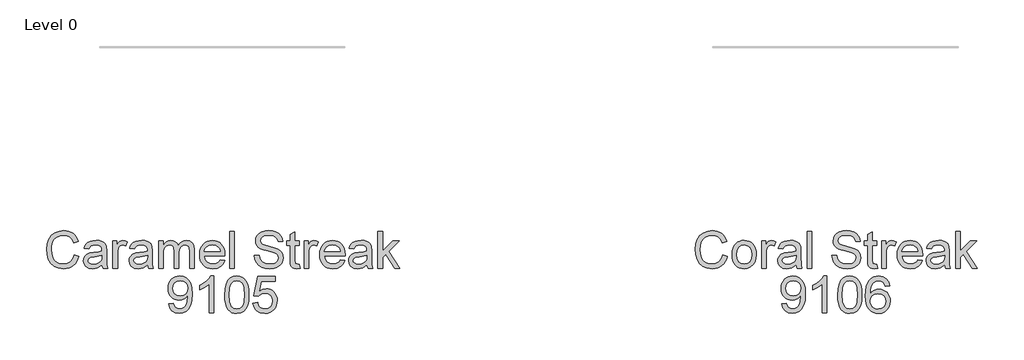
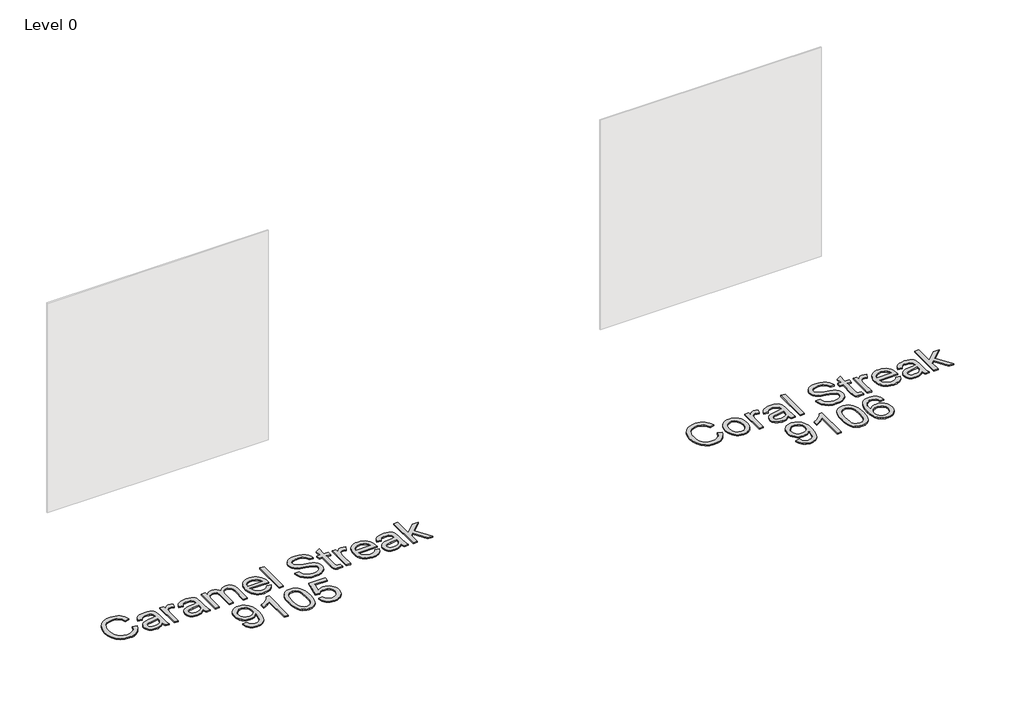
# One storey, part 9 of 10: 2 proxies.
"""IFC4 building model written with IfcOpenShell, lengths in millimetres."""

from ifc_helpers import new_model, si_unit, origin, origin_with_axes, place, context, project, spatial, polyline, outline, extrude, element, save

model = new_model("IFC4")

# Units and contexts
model_context = context("Model", 3, world=origin())
ifc_project = project(units=[si_unit("LENGTHUNIT", "METRE", prefix="MILLI")], contexts=[model_context])

# Site, building, storey
site = spatial("IfcSite", under=ifc_project)
building = spatial("IfcBuilding", under=site)
storey = spatial("IfcBuildingStorey", under=building, Name="Level 0", Elevation=0.0)

# Proxies
placement = place(None, origin())
element("IfcBuildingElementProxy", 1, Name="300mm Arial", ObjectType="300mm Arial", at=placement, inside=storey, context=model_context, shape_type="SweptSolid", body=[
    extrude(outline(polyline([(9631.1084837, -6895.733257), (9668.7796, -6905.4453417), (9661.3253911, -6928.872527), (9651.3971758, -6949.3428607), (9638.994954, -6966.856343), (9624.1187258, -6981.4129737), (9607.1041835, -6992.856403), (9588.2870195, -7001.0302811), (9567.6672337, -7005.9346079), (9545.2448261, -7007.5693835), (9501.5496421, -7002.6213707), (9466.8491729, -6987.7773322), (9440.2513046, -6963.5523028), (9420.8639235, -6930.4613173), (9409.0273203, -6891.5577963), (9405.0817859, -6849.8951604), (9409.5423551, -6805.9516561), (9422.9240627, -6768.0046283), (9444.5279328, -6737.2588905), (9473.6549898, -6714.9192564), (9508.1991091, -6701.3168196), (9546.0541664, -6696.782674), (9587.3581175, -6702.6503918), (9605.3268537, -6709.9850391), (9621.5067637, -6720.2535453), (9635.631133, -6733.1845974), (9647.4332473, -6748.5068825), (9664.0707105, -6786.3251516), (9626.3995942, -6795.3014723), (9613.3397834, -6767.8298843), (9595.4975066, -6748.9851291), (9572.6520347, -6738.086625), (9544.5826385, -6734.4537903), (9512.227417, -6738.4820981), (9485.6479428, -6750.5670217), (9465.4788125, -6769.439368), (9452.3546223, -6793.8299443), (9445.1533322, -6821.4026999), (9442.7529022, -6849.821584), (9445.5947906, -6884.6232207), (9454.1204559, -6914.7159679), (9468.6517947, -6938.9501944), (9489.5107038, -6956.1762688), (9514.5174824, -6966.4677676), (9541.4924297, -6969.8982672), (9572.9371432, -6965.2261659), (9599.1395384, -6951.2098619), (9618.9223926, -6927.996508), (9631.1084837, -6895.733257)])), origin_with_axes(), (0.0, 0.0, 1.0), 10.0),
    extrude(outline(polyline([(9706.4507163, -6892.2015898), (9708.4878629, -6863.5389839), (9714.5993025, -6838.8403064), (9724.7850353, -6818.1055575), (9739.0450611, -6801.334737), (9753.401656, -6790.6155754), (9769.2481729, -6782.9590314), (9786.5846119, -6778.3651049), (9805.410973, -6776.8337961), (9826.1940065, -6778.698498), (9844.9858787, -6784.2926036), (9861.7865895, -6793.6161129), (9876.5961391, -6806.669026), (9888.6833619, -6823.0098843), (9897.3170925, -6842.1972296), (9902.4973308, -6864.2310619), (9904.224077, -6889.1113811), (9901.1706564, -6927.1687735), (9892.0103947, -6956.1394806), (9877.0100064, -6977.8353213), (9856.4362058, -6994.0681143), (9831.9996442, -7004.1940662), (9805.410973, -7007.5693835), (9784.3244369, -7005.7115794), (9765.3578208, -7000.1381672), (9748.5111247, -6990.8491468), (9733.7843486, -6977.8445183), (9721.8258845, -6961.3450108), (9713.2841244, -6941.5713536), (9708.1590684, -6918.5235466), (9706.4507163, -6892.2015898)]), holes=[polyline([(9744.1218326, -6892.1280134), (9748.4812343, -6926.2214773), (9761.5594392, -6950.5108861), (9781.241126, -6965.0514219), (9805.410973, -6969.8982672), (9829.4704555, -6965.0238308), (9849.1153541, -6950.4005215), (9862.193559, -6925.789216), (9866.5529606, -6890.950791), (9862.1659679, -6857.8506085), (9849.0049895, -6833.8922936), (9829.3324998, -6819.3517577), (9805.410973, -6814.5049125), (9781.241126, -6819.3333636), (9761.5594392, -6833.8187172), (9748.4812343, -6858.0529436), (9744.1218326, -6892.1280134)])]), origin_with_axes(), (0.0, 0.0, 1.0), 10.0),
    extrude(outline(polyline([(9946.6040828, -7002.860494), (9946.6040828, -6781.5426857), (9979.5663096, -6781.5426857), (9979.5663096, -6814.2841833), (9991.7432036, -6795.3014723), (10002.9636045, -6784.1178596), (10014.2207935, -6778.654812), (10026.5080521, -6776.8337961), (10045.2700339, -6779.7400639), (10064.3263213, -6788.4588672), (10051.744757, -6822.2304343), (10038.5010052, -6816.4362929), (10025.2572534, -6814.5049125), (10014.0092614, -6816.3627165), (10003.9568858, -6821.9361288), (9995.8358908, -6830.8020848), (9990.3820402, -6842.5375205), (9985.8019094, -6863.5803706), (9984.2751991, -6886.5362071), (9984.2751991, -7002.860494), (9946.6040828, -7002.860494)])), origin_with_axes(), (0.0, 0.0, 1.0), 10.0),
    extrude(outline(polyline([(10229.1374551, -6974.6071568), (10211.1388285, -6990.0398064), (10192.606773, -7000.1381672), (10173.1182243, -7005.7115794), (10152.2501181, -7007.5693835), (10120.7686164, -7003.0996173), (10097.5460654, -6989.6903186), (10083.2262588, -6969.3280501), (10078.4529899, -6943.9993748), (10080.2556116, -6928.3827841), (10085.663477, -6914.2009331), (10094.0052012, -6902.0608273), (10104.6093997, -6892.5694718), (10130.9865388, -6880.2086368), (10163.5808836, -6874.5432541), (10202.0981284, -6868.5835657), (10228.9167259, -6861.5938078), (10229.1374551, -6853.2060983), (10226.543887, -6836.3938912), (10218.7631828, -6825.3942195), (10201.3623645, -6817.2272392), (10177.118941, -6814.5049125), (10154.6781393, -6816.3167313), (10139.0063663, -6821.7521878), (10128.3193943, -6831.8045633), (10120.8329957, -6847.4671392), (10083.1618794, -6842.7582497), (10089.7009819, -6822.156858), (10099.4590518, -6805.9700502), (10113.3465971, -6793.590821), (10132.2741258, -6784.4121652), (10155.4231003, -6778.7283884), (10181.9749833, -6776.8337961), (10207.4416144, -6778.5076592), (10227.6291389, -6783.5292485), (10242.8502565, -6791.0800264), (10253.4176668, -6800.3414556), (10260.4258188, -6811.7917827), (10264.9691614, -6825.9092543), (10266.8085714, -6858.8714811), (10266.8085714, -6905.7396473), (10268.7215578, -6971.1858542), (10276.2263505, -7002.860494), (10238.5552342, -7002.860494), (10229.1374551, -6974.6071568)]), holes=[polyline([(10229.1374551, -6899.2649241), (10168.3633495, -6910.8164188), (10135.9529457, -6916.9232599), (10121.2744541, -6926.8560738), (10116.1241062, -6941.3506244), (10118.9292064, -6952.5526311), (10127.344507, -6961.7312869), (10141.1860671, -6967.8565221), (10160.2699456, -6969.8982672), (10180.5034553, -6967.64499), (10198.3825203, -6960.8851583), (10212.8770709, -6950.9247533), (10222.9570376, -6939.069756), (10227.4268038, -6926.8560738), (10228.9167259, -6909.933502), (10229.1374551, -6899.2649241)])]), origin_with_axes(), (0.0, 0.0, 1.0), 10.0),
    extrude(outline(polyline([(10318.6063563, -7002.860494), (10318.6063563, -6701.4915635), (10356.2774726, -6701.4915635), (10356.2774726, -7002.860494), (10318.6063563, -7002.860494)])), origin_with_axes(), (0.0, 0.0, 1.0), 10.0),
    extrude(outline(polyline([(10521.0886065, -6899.2649241), (10558.7597228, -6899.2649241), (10563.0823362, -6920.1698185), (10570.8998286, -6936.9728286), (10583.0951168, -6950.308551), (10600.5511174, -6960.8115819), (10621.8882731, -6967.6265959), (10645.7270264, -6969.8982672), (10666.7146943, -6968.1784189), (10685.0903999, -6963.0188739), (10699.9804237, -6954.8518936), (10710.5110458, -6944.1097394), (10716.7742367, -6931.7764955), (10718.8619671, -6918.8362463), (10717.2984686, -6906.2270909), (10712.6079732, -6895.3285868), (10703.0798295, -6886.0303694), (10687.0033863, -6878.222074), (10632.1521808, -6863.837888), (10596.1457305, -6854.3189414), (10573.1071206, -6845.2598472), (10554.3543359, -6832.5863125), (10541.0645988, -6817.2272392), (10533.1459389, -6799.5137211), (10530.5063855, -6779.7768521), (10533.7713382, -6757.7131294), (10543.5661964, -6737.1393289), (10559.6334425, -6719.7017223), (10581.7155593, -6707.0465817), (10608.221457, -6699.3486509), (10637.5600461, -6696.782674), (10669.3450505, -6699.4682126), (10697.1569294, -6707.5248283), (10720.0024013, -6720.7869742), (10736.8881848, -6739.0891034), (10747.5751568, -6761.2907818), (10751.8241938, -6786.2515752), (10714.1530775, -6786.2515752), (10707.236896, -6763.7739853), (10692.8159218, -6747.5503893), (10670.2831496, -6737.7279401), (10639.0315741, -6734.4537903), (10607.0442346, -6737.6911519), (10585.1000736, -6747.4032365), (10572.4081448, -6761.695452), (10568.1775018, -6778.6732061), (10571.1757401, -6793.1493626), (10580.1704549, -6804.7928278), (10601.4340342, -6815.2038882), (10641.6803245, -6825.8356779), (10683.2142017, -6835.9340387), (10708.340542, -6844.7448125), (10729.8156535, -6858.4116286), (10744.7976477, -6875.2790181), (10753.5992245, -6895.1630399), (10756.5330834, -6917.8797531), (10753.1577661, -6941.102304), (10743.0318142, -6962.9452975), (10726.5690949, -6981.7440675), (10704.1834755, -6995.8339479), (10677.2637105, -7004.6355246), (10647.1985544, -7007.5693835), (10610.2907932, -7004.4055984), (10579.9129375, -6994.9142429), (10555.7154993, -6979.0585289), (10537.3489906, -6956.8016682), (10525.5583727, -6929.6887651), (10521.0886065, -6899.2649241)])), origin_with_axes(), (0.0, 0.0, 1.0), 10.0),
    extrude(outline(polyline([(10888.3819904, -6971.4433716), (10893.09088, -7003.96414), (10864.9111192, -7007.5693835), (10846.8297191, -7006.005885), (10833.346844, -7001.3153896), (10823.8187003, -6994.0865084), (10817.6014946, -6984.9078526), (10814.180192, -6969.1441091), (10813.0397578, -6942.1599648), (10813.0397578, -6819.213802), (10784.7864206, -6819.213802), (10784.7864206, -6781.5426857), (10813.0397578, -6781.5426857), (10813.0397578, -6727.758338), (10850.7108741, -6705.6118419), (10850.7108741, -6781.5426857), (10888.3819904, -6781.5426857), (10888.3819904, -6819.213802), (10850.7108741, -6819.213802), (10850.7108741, -6941.0563188), (10852.6974369, -6960.4804881), (10859.1353718, -6967.3598814), (10871.9744535, -6969.8982672), (10888.3819904, -6971.4433716)])), origin_with_axes(), (0.0, 0.0, 1.0), 10.0),
    extrude(outline(polyline([(10926.0531068, -7002.860494), (10926.0531068, -6781.5426857), (10959.0153335, -6781.5426857), (10959.0153335, -6814.2841833), (10971.1922276, -6795.3014723), (10982.4126284, -6784.1178596), (10993.6698175, -6778.654812), (11005.9570761, -6776.8337961), (11024.7190579, -6779.7400639), (11043.7753452, -6788.4588672), (11031.193781, -6822.2304343), (11017.9500291, -6816.4362929), (11004.7062773, -6814.5049125), (10993.4582853, -6816.3627165), (10983.4059098, -6821.9361288), (10975.2849148, -6830.8020848), (10969.8310642, -6842.5375205), (10965.2509333, -6863.5803706), (10963.7242231, -6886.5362071), (10963.7242231, -7002.860494), (10926.0531068, -7002.860494)])), origin_with_axes(), (0.0, 0.0, 1.0), 10.0),
    extrude(outline(polyline([(11222.2716893, -6936.9360404), (11259.2070416, -6941.64493), (11245.8989104, -6969.4752029), (11224.6629222, -6990.2789297), (11195.9773237, -7003.2467701), (11160.3203613, -7007.5693835), (11136.946059, -7005.7046817), (11116.1193396, -7000.1105761), (11097.8402029, -6990.7870668), (11082.1086491, -6977.7341537), (11069.458107, -6961.3151204), (11060.4220055, -6941.8932503), (11055.0003446, -6919.4685435), (11053.1931243, -6894.0409998), (11055.0187387, -6867.7512327), (11060.4955819, -6844.5792656), (11069.6236539, -6824.5250983), (11082.4029547, -6807.5887309), (11098.0931218, -6794.133447), (11115.9537927, -6784.5225298), (11135.9849673, -6778.7559796), (11158.1866457, -6776.8337961), (11179.6732535, -6778.751381), (11199.1043206, -6784.5041357), (11216.4798471, -6794.0920602), (11231.7998329, -6807.5151545), (11244.3055215, -6824.4147337), (11253.2381562, -6844.4321128), (11258.597737, -6867.5672917), (11260.384264, -6893.8202706), (11260.1635348, -6903.9738137), (11090.8642406, -6903.9738137), (11097.384949, -6932.1719686), (11112.5324901, -6952.902119), (11134.3938777, -6965.6492302), (11161.0561253, -6969.8982672), (11181.105694, -6967.9300985), (11197.9914776, -6962.0255925), (11211.713476, -6951.8168672), (11222.2716893, -6936.9360404)]), holes=[polyline([(11090.8642406, -6866.3026974), (11222.7131477, -6866.3026974), (11217.617982, -6846.4002814), (11207.6299859, -6832.1632482), (11185.6674308, -6818.9194964), (11158.0394929, -6814.5049125), (11132.6464382, -6818.0273826), (11111.6495733, -6828.5947929), (11097.0538552, -6845.0667092), (11090.8642406, -6866.3026974)])]), origin_with_axes(), (0.0, 0.0, 1.0), 10.0),
    extrude(outline(polyline([(11439.3220664, -6974.6071568), (11421.3234398, -6990.0398064), (11402.7913843, -7000.1381672), (11383.3028356, -7005.7115794), (11362.4347294, -7007.5693835), (11330.9532277, -7003.0996173), (11307.7306767, -6989.6903186), (11293.4108701, -6969.3280501), (11288.6376012, -6943.9993748), (11290.440223, -6928.3827841), (11295.8480883, -6914.2009331), (11304.1898125, -6902.0608273), (11314.7940111, -6892.5694718), (11341.1711501, -6880.2086368), (11373.7654949, -6874.5432541), (11412.2827398, -6868.5835657), (11439.1013372, -6861.5938078), (11439.3220664, -6853.2060983), (11436.7284984, -6836.3938912), (11428.9477942, -6825.3942195), (11411.5469758, -6817.2272392), (11387.3035523, -6814.5049125), (11364.8627506, -6816.3167313), (11349.1909776, -6821.7521878), (11338.5040056, -6831.8045633), (11331.017607, -6847.4671392), (11293.3464907, -6842.7582497), (11299.8855932, -6822.156858), (11309.6436631, -6805.9700502), (11323.5312084, -6793.590821), (11342.4587371, -6784.4121652), (11365.6077116, -6778.7283884), (11392.1595946, -6776.8337961), (11417.6262258, -6778.5076592), (11437.8137502, -6783.5292485), (11453.0348678, -6791.0800264), (11463.6022781, -6800.3414556), (11470.6104301, -6811.7917827), (11475.1537728, -6825.9092543), (11476.9931827, -6858.8714811), (11476.9931827, -6905.7396473), (11478.9061691, -6971.1858542), (11486.4109618, -7002.860494), (11448.7398455, -7002.860494), (11439.3220664, -6974.6071568)]), holes=[polyline([(11439.3220664, -6899.2649241), (11378.5479608, -6910.8164188), (11346.137557, -6916.9232599), (11331.4590654, -6926.8560738), (11326.3087175, -6941.3506244), (11329.1138177, -6952.5526311), (11337.5291184, -6961.7312869), (11351.3706784, -6967.8565221), (11370.4545569, -6969.8982672), (11390.6880667, -6967.64499), (11408.5671316, -6960.8851583), (11423.0616822, -6950.9247533), (11433.1416489, -6939.069756), (11437.6114151, -6926.8560738), (11439.1013372, -6909.933502), (11439.3220664, -6899.2649241)])]), origin_with_axes(), (0.0, 0.0, 1.0), 10.0),
    extrude(outline(polyline([(11528.7909677, -7002.860494), (11528.7909677, -6701.4915635), (11566.462084, -6701.4915635), (11566.462084, -6863.4332178), (11650.9277901, -6781.5426857), (11703.0198806, -6781.5426857), (11617.5241049, -6864.4632874), (11707.7287701, -7002.860494), (11663.7300835, -7002.860494), (11590.5215664, -6890.6564855), (11566.462084, -6913.9802039), (11566.462084, -7002.860494), (11528.7909677, -7002.860494)])), origin_with_axes(), (0.0, 0.0, 1.0), 10.0),
    extrude(outline(polyline([(10111.4152166, -7293.4427149), (10149.0863329, -7288.7338254), (10155.5242679, -7310.1169663), (10166.0089047, -7324.6758963), (10180.2827261, -7333.0360146), (10198.0882147, -7335.8227207), (10214.0634903, -7334.029296), (10228.5856321, -7328.6490218), (10240.6521615, -7320.2705094), (10249.2606002, -7309.4823699), (10261.5846471, -7276.7408723), (10267.0293006, -7233.0364913), (10266.8085714, -7225.6788514), (10253.7579576, -7241.6081418), (10236.679036, -7254.2264942), (10216.8042112, -7262.4486568), (10195.3658879, -7265.1893777), (10177.4707281, -7263.5155146), (10161.0149066, -7258.4939254), (10145.9984234, -7250.12461), (10132.4212786, -7238.4075684), (10121.1709873, -7223.9544045), (10113.135065, -7207.3767221), (10108.3135116, -7188.6745212), (10106.7063271, -7167.8478018), (10108.3916865, -7146.326705), (10113.4477647, -7127.0129003), (10121.8745616, -7109.9063875), (10133.6720773, -7095.0071667), (10148.0079788, -7082.9360387), (10164.0499331, -7074.3138045), (10181.7979401, -7069.1404639), (10201.2519999, -7067.4160171), (10229.3489872, -7071.3523544), (10254.925983, -7083.1613665), (10276.318321, -7102.254442), (10291.8613353, -7128.0429699), (10301.3250996, -7163.6907352), (10304.4796877, -7212.3615232), (10301.3342966, -7263.96617), (10291.8981235, -7303.8537754), (10276.2539416, -7333.8269609), (10254.4845246, -7355.6883485), (10227.5279714, -7369.0424649), (10196.3223811, -7373.4938371), (10164.1143124, -7368.2423216), (10138.4177551, -7352.4877751), (10120.4467196, -7327.2234791), (10111.4152166, -7293.4427149)]), holes=[polyline([(10266.8085714, -7166.964885), (10262.7434754, -7141.4338745), (10250.5481872, -7121.788976), (10231.6206586, -7109.262594), (10207.358841, -7105.0871334), (10182.1957125, -7109.5844908), (10162.0357792, -7123.0765629), (10148.7920273, -7143.7239399), (10144.3774434, -7169.6872117), (10148.552904, -7192.964945), (10161.079286, -7211.4418182), (10180.7425786, -7223.4991506), (10206.3287714, -7227.5182614), (10230.3974509, -7223.4991506), (10249.775635, -7211.4418182), (10262.5503373, -7192.2843633), (10266.8085714, -7166.964885)])]), origin_with_axes(), (0.0, 0.0, 1.0), 10.0),
    extrude(outline(polyline([(10478.7086006, -7368.7849475), (10441.0374843, -7368.7849475), (10441.0374843, -7133.9290818), (10405.3529308, -7159.3497277), (10365.6952517, -7178.3692268), (10365.6952517, -7142.7582497), (10395.2821612, -7126.6634124), (10420.9143392, -7107.5151545), (10441.1202578, -7087.1528861), (10454.4283889, -7067.4160171), (10478.7086006, -7067.4160171), (10478.7086006, -7368.7849475)])), origin_with_axes(), (0.0, 0.0, 1.0), 10.0),
    extrude(outline(polyline([(10568.1775018, -7220.5285035), (10570.9458139, -7172.2899768), (10579.2507499, -7133.8187172), (10593.0095365, -7104.5261133), (10612.1394003, -7083.8235541), (10636.7782969, -7071.5179013), (10667.0641821, -7067.4160171), (10690.277536, -7069.8440382), (10711.0628688, -7077.1281017), (10728.445293, -7088.983099), (10741.4499216, -7105.1239216), (10751.2723708, -7125.4126136), (10759.1082573, -7149.7112194), (10764.2402112, -7180.5673217), (10765.9508625, -7220.5285035), (10763.2101416, -7268.4911186), (10754.987979, -7306.8704077), (10741.3119658, -7336.1906027), (10722.2096932, -7356.9759355), (10697.5156143, -7369.3643617), (10667.0641821, -7373.4938371), (10646.3156376, -7371.7004123), (10627.9215379, -7366.3201381), (10611.8818829, -7357.3530145), (10598.1966727, -7344.7990414), (10585.0632854, -7322.1053209), (10575.6822945, -7293.828991), (10570.0537, -7259.9700519), (10568.1775018, -7220.5285035)]), holes=[polyline([(10605.8486182, -7220.4549271), (10610.2632021, -7279.7115194), (10615.781432, -7299.9795181), (10623.5069539, -7314.0073184), (10643.2254289, -7330.3688702), (10667.0641821, -7335.8227207), (10690.9029354, -7330.3504761), (10710.6214104, -7313.933742), (10718.3469323, -7299.8829491), (10723.8651622, -7279.6195489), (10728.2797461, -7220.4549271), (10724.012315, -7162.5319069), (10718.6780261, -7142.3305869), (10711.2100216, -7127.9693935), (10691.5283348, -7110.8076984), (10666.6227238, -7105.0871334), (10643.0414879, -7110.1271167), (10624.0955651, -7125.2470667), (10616.1125258, -7140.8820515), (10610.4103549, -7161.9616898), (10605.8486182, -7220.4549271)])]), origin_with_axes(), (0.0, 0.0, 1.0), 10.0),
    extrude(outline(polyline([(10991.9775603, -7147.4671392), (10954.306444, -7152.1760288), (10948.2363911, -7133.5060175), (10940.0326226, -7120.7589064), (10922.9445039, -7109.0050766), (10902.2879299, -7105.0871334), (10884.7767469, -7107.3680017), (10868.2956335, -7114.2106069), (10854.1413737, -7128.622384), (10842.580682, -7148.4604206), (10834.7723867, -7176.5206198), (10831.875316, -7215.5988847), (10846.9860689, -7197.9681401), (10865.0950602, -7185.5429257), (10885.1906141, -7178.1760888), (10906.2610554, -7175.7204764), (10924.3608496, -7177.3989381), (10941.0626922, -7182.4343229), (10956.3665832, -7190.8266309), (10970.2725226, -7202.5758621), (10981.8286157, -7216.9830407), (10990.082968, -7233.349191), (10995.0355794, -7251.6743129), (10996.6864498, -7271.9584064), (10993.577847, -7298.9333537), (10984.2520384, -7323.9401323), (10969.4815763, -7345.1485293), (10950.0390128, -7360.7283318), (10926.8072648, -7370.3024607), (10900.6692491, -7373.4938371), (10878.2123525, -7371.3785156), (10857.9305583, -7365.0325512), (10839.8238663, -7354.4559438), (10823.8922767, -7339.6486935), (10810.903743, -7319.9854009), (10801.6262189, -7294.8406665), (10796.0597045, -7264.2144904), (10794.2041997, -7228.1068726), (10796.2643389, -7187.6260575), (10802.4447564, -7153.0773396), (10812.7454522, -7124.4607189), (10827.1664265, -7101.7761954), (10842.7968127, -7086.7436174), (10860.9195995, -7076.0060617), (10881.5347868, -7069.5635282), (10904.6423746, -7067.4160171), (10937.6965719, -7072.7319119), (10964.1656815, -7088.6795964), (10982.706934, -7114.0082718), (10991.9775603, -7147.4671392)]), holes=[polyline([(10831.875316, -7271.3697952), (10834.0550168, -7288.0624407), (10840.5941193, -7304.0009282), (10850.7476623, -7317.7045325), (10863.770685, -7327.6925287), (10879.4884432, -7333.7901727), (10897.7261931, -7335.8227207), (10922.5858189, -7331.6104719), (10942.1295499, -7318.9737254), (10954.7938876, -7299.1080976), (10959.0153335, -7273.2092052), (10954.8490699, -7248.3495793), (10942.3502791, -7229.3944595), (10922.4754544, -7217.3923095), (10896.1810887, -7213.3915928), (10871.3582511, -7217.3923095), (10850.6005095, -7229.3944595), (10836.5566144, -7247.8897269), (10831.875316, -7271.3697952)])]), origin_with_axes(), (0.0, 0.0, 1.0), 10.0),
])
element("IfcBuildingElementProxy", 2, Name="300mm Arial", ObjectType="300mm Arial", at=placement, inside=storey, context=model_context, shape_type="SweptSolid", body=[
    extrude(outline(polyline([(4341.5117771, -6895.733257), (4379.1828934, -6905.4453417), (4371.7286845, -6928.872527), (4361.8004692, -6949.3428607), (4349.3982474, -6966.856343), (4334.5220192, -6981.4129737), (4317.5074769, -6992.856403), (4298.6903129, -7001.0302811), (4278.0705271, -7005.9346079), (4255.6481195, -7007.5693835), (4211.9529355, -7002.6213707), (4177.2524663, -6987.7773322), (4150.654598, -6963.5523028), (4131.2672169, -6930.4613173), (4119.4306137, -6891.5577963), (4115.4850793, -6849.8951604), (4119.9456485, -6805.9516561), (4133.3273561, -6768.0046283), (4154.9312262, -6737.2588905), (4184.0582832, -6714.9192564), (4218.6024025, -6701.3168196), (4256.4574598, -6696.782674), (4297.7614109, -6702.6503918), (4315.7301471, -6709.9850391), (4331.9100571, -6720.2535453), (4346.0344264, -6733.1845974), (4357.8365407, -6748.5068825), (4374.4740039, -6786.3251516), (4336.8028876, -6795.3014723), (4323.7430768, -6767.8298843), (4305.9008, -6748.9851291), (4283.0553281, -6738.086625), (4254.9859319, -6734.4537903), (4222.6307104, -6738.4820981), (4196.0512362, -6750.5670217), (4175.8821058, -6769.439368), (4162.7579157, -6793.8299443), (4155.5566256, -6821.4026999), (4153.1561956, -6849.821584), (4155.998084, -6884.6232207), (4164.5237492, -6914.7159679), (4179.0550881, -6938.9501944), (4199.9139972, -6956.1762688), (4224.9207758, -6966.4677676), (4251.8957231, -6969.8982672), (4283.3404366, -6965.2261659), (4309.5428317, -6951.2098619), (4329.325686, -6927.996508), (4341.5117771, -6895.733257)])), origin_with_axes(), (0.0, 0.0, 1.0), 10.0),
    extrude(outline(polyline([(4567.538475, -6974.6071568), (4549.5398484, -6990.0398064), (4531.0077928, -7000.1381672), (4511.5192441, -7005.7115794), (4490.651138, -7007.5693835), (4459.1696362, -7003.0996173), (4435.9470853, -6989.6903186), (4421.6272786, -6969.3280501), (4416.8540097, -6943.9993748), (4418.6566315, -6928.3827841), (4424.0644968, -6914.2009331), (4432.4062211, -6902.0608273), (4443.0104196, -6892.5694718), (4469.3875587, -6880.2086368), (4501.9819034, -6874.5432541), (4540.4991483, -6868.5835657), (4567.3177458, -6861.5938078), (4567.538475, -6853.2060983), (4564.9449069, -6836.3938912), (4557.1642027, -6825.3942195), (4539.7633843, -6817.2272392), (4515.5199608, -6814.5049125), (4493.0791591, -6816.3167313), (4477.4073861, -6821.7521878), (4466.7204142, -6831.8045633), (4459.2340156, -6847.4671392), (4421.5628993, -6842.7582497), (4428.1020017, -6822.156858), (4437.8600717, -6805.9700502), (4451.747617, -6793.590821), (4470.6751456, -6784.4121652), (4493.8241202, -6778.7283884), (4520.3760032, -6776.8337961), (4545.8426343, -6778.5076592), (4566.0301588, -6783.5292485), (4581.2512763, -6791.0800264), (4591.8186866, -6800.3414556), (4598.8268387, -6811.7917827), (4603.3701813, -6825.9092543), (4605.2095913, -6858.8714811), (4605.2095913, -6905.7396473), (4607.1225776, -6971.1858542), (4614.6273703, -7002.860494), (4576.956254, -7002.860494), (4567.538475, -6974.6071568)]), holes=[polyline([(4567.538475, -6899.2649241), (4506.7643694, -6910.8164188), (4474.3539656, -6916.9232599), (4459.675474, -6926.8560738), (4454.525126, -6941.3506244), (4457.3302263, -6952.5526311), (4465.7455269, -6961.7312869), (4479.587087, -6967.8565221), (4498.6709655, -6969.8982672), (4518.9044752, -6967.64499), (4536.7835402, -6960.8851583), (4551.2780908, -6950.9247533), (4561.3580574, -6939.069756), (4565.8278237, -6926.8560738), (4567.3177458, -6909.933502), (4567.538475, -6899.2649241)])]), origin_with_axes(), (0.0, 0.0, 1.0), 10.0),
    extrude(outline(polyline([(4657.0073762, -7002.860494), (4657.0073762, -6781.5426857), (4689.969603, -6781.5426857), (4689.969603, -6814.2841833), (4702.146497, -6795.3014723), (4713.3668979, -6784.1178596), (4724.6240869, -6778.654812), (4736.9113455, -6776.8337961), (4755.6733273, -6779.7400639), (4774.7296146, -6788.4588672), (4762.1480504, -6822.2304343), (4748.9042986, -6816.4362929), (4735.6605468, -6814.5049125), (4724.4125548, -6816.3627165), (4714.3601792, -6821.9361288), (4706.2391842, -6830.8020848), (4700.7853336, -6842.5375205), (4696.2052028, -6863.5803706), (4694.6784925, -6886.5362071), (4694.6784925, -7002.860494), (4657.0073762, -7002.860494)])), origin_with_axes(), (0.0, 0.0, 1.0), 10.0),
    extrude(outline(polyline([(4939.5407485, -6974.6071568), (4921.5421219, -6990.0398064), (4903.0100664, -7000.1381672), (4883.5215177, -7005.7115794), (4862.6534115, -7007.5693835), (4831.1719098, -7003.0996173), (4807.9493588, -6989.6903186), (4793.6295522, -6969.3280501), (4788.8562833, -6943.9993748), (4790.658905, -6928.3827841), (4796.0667704, -6914.2009331), (4804.4084946, -6902.0608273), (4815.0126931, -6892.5694718), (4841.3898322, -6880.2086368), (4873.9841769, -6874.5432541), (4912.5014218, -6868.5835657), (4939.3200193, -6861.5938078), (4939.5407485, -6853.2060983), (4936.9471804, -6836.3938912), (4929.1664762, -6825.3942195), (4911.7656579, -6817.2272392), (4887.5222344, -6814.5049125), (4865.0814327, -6816.3167313), (4849.4096597, -6821.7521878), (4838.7226877, -6831.8045633), (4831.2362891, -6847.4671392), (4793.5651728, -6842.7582497), (4800.1042753, -6822.156858), (4809.8623452, -6805.9700502), (4823.7498905, -6793.590821), (4842.6774192, -6784.4121652), (4865.8263937, -6778.7283884), (4892.3782767, -6776.8337961), (4917.8449078, -6778.5076592), (4938.0324323, -6783.5292485), (4953.2535499, -6791.0800264), (4963.8209602, -6800.3414556), (4970.8291122, -6811.7917827), (4975.3724548, -6825.9092543), (4977.2118648, -6858.8714811), (4977.2118648, -6905.7396473), (4979.1248512, -6971.1858542), (4986.6296439, -7002.860494), (4948.9585276, -7002.860494), (4939.5407485, -6974.6071568)]), holes=[polyline([(4939.5407485, -6899.2649241), (4878.7666429, -6910.8164188), (4846.3562391, -6916.9232599), (4831.6777475, -6926.8560738), (4826.5273996, -6941.3506244), (4829.3324998, -6952.5526311), (4837.7478004, -6961.7312869), (4851.5893605, -6967.8565221), (4870.673239, -6969.8982672), (4890.9067487, -6967.64499), (4908.7858137, -6960.8851583), (4923.2803643, -6950.9247533), (4933.360331, -6939.069756), (4937.8300972, -6926.8560738), (4939.3200193, -6909.933502), (4939.5407485, -6899.2649241)])]), origin_with_axes(), (0.0, 0.0, 1.0), 10.0),
    extrude(outline(polyline([(5029.0096497, -7002.860494), (5029.0096497, -6781.5426857), (5066.680766, -6781.5426857), (5066.680766, -6817.9630032), (5078.0115315, -6801.2335695), (5092.5796585, -6788.1277734), (5109.8885064, -6779.6572905), (5129.4414344, -6776.8337961), (5150.392314, -6779.7124728), (5167.1861271, -6788.3485026), (5179.7309031, -6802.1716686), (5187.9346716, -6820.6117536), (5201.6658671, -6801.4588972), (5217.328443, -6787.7782855), (5234.9223995, -6779.5699185), (5254.4477364, -6776.8337961), (5282.7654529, -6781.3863358), (5303.7071355, -6795.0439549), (5316.6473847, -6818.1745354), (5320.9608011, -6851.1459592), (5320.9608011, -7002.860494), (5283.2896848, -7002.860494), (5283.2896848, -6867.332767), (5279.7948058, -6835.8788564), (5274.8835812, -6827.2060383), (5267.1396652, -6820.3910244), (5257.1792602, -6815.9764404), (5245.6185685, -6814.5049125), (5225.2103148, -6818.2757029), (5208.5728516, -6829.5880743), (5197.5088006, -6849.2145787), (5193.8207836, -6877.9277684), (5193.8207836, -7002.860494), (5156.1496672, -7002.860494), (5156.1496672, -6863.1389122), (5153.9699664, -6841.8385447), (5147.430864, -6826.6450183), (5135.9253546, -6817.5399389), (5118.8464329, -6814.5049125), (5104.3334882, -6816.5282634), (5090.9609777, -6822.5983163), (5079.9245178, -6832.5679184), (5072.4197251, -6846.2899168), (5068.1155058, -6865.3278101), (5066.680766, -6891.2450966), (5066.680766, -7002.860494), (5029.0096497, -7002.860494)])), origin_with_axes(), (0.0, 0.0, 1.0), 10.0),
    extrude(outline(polyline([(5532.4193719, -6936.9360404), (5569.3547242, -6941.64493), (5556.0465931, -6969.4752029), (5534.8106049, -6990.2789297), (5506.1250063, -7003.2467701), (5470.4680439, -7007.5693835), (5447.0937417, -7005.7046817), (5426.2670222, -7000.1105761), (5407.9878856, -6990.7870668), (5392.2563318, -6977.7341537), (5379.6057896, -6961.3151204), (5370.5696881, -6941.8932503), (5365.1480272, -6919.4685435), (5363.3408069, -6894.0409998), (5365.1664213, -6867.7512327), (5370.6432645, -6844.5792656), (5379.7713365, -6824.5250983), (5392.5506373, -6807.5887309), (5408.2408044, -6794.133447), (5426.1014753, -6784.5225298), (5446.1326499, -6778.7559796), (5468.3343284, -6776.8337961), (5489.8209361, -6778.751381), (5509.2520033, -6784.5041357), (5526.6275298, -6794.0920602), (5541.9475156, -6807.5151545), (5554.4532042, -6824.4147337), (5563.3858389, -6844.4321128), (5568.7454197, -6867.5672917), (5570.5319466, -6893.8202706), (5570.3112174, -6903.9738137), (5401.0119232, -6903.9738137), (5407.5326316, -6932.1719686), (5422.6801728, -6952.902119), (5444.5415603, -6965.6492302), (5471.2038079, -6969.8982672), (5491.2533767, -6967.9300985), (5508.1391602, -6962.0255925), (5521.8611587, -6951.8168672), (5532.4193719, -6936.9360404)]), holes=[polyline([(5401.0119232, -6866.3026974), (5532.8608303, -6866.3026974), (5527.7656647, -6846.4002814), (5517.7776685, -6832.1632482), (5495.8151134, -6818.9194964), (5468.1871756, -6814.5049125), (5442.7941208, -6818.0273826), (5421.797256, -6828.5947929), (5407.2015378, -6845.0667092), (5401.0119232, -6866.3026974)])]), origin_with_axes(), (0.0, 0.0, 1.0), 10.0),
    extrude(outline(polyline([(5608.2030629, -7002.860494), (5608.2030629, -6701.4915635), (5645.8741792, -6701.4915635), (5645.8741792, -7002.860494), (5608.2030629, -7002.860494)])), origin_with_axes(), (0.0, 0.0, 1.0), 10.0),
    extrude(outline(polyline([(5810.6853131, -6899.2649241), (5848.3564294, -6899.2649241), (5852.6790428, -6920.1698185), (5860.4965352, -6936.9728286), (5872.6918234, -6950.308551), (5890.147824, -6960.8115819), (5911.4849797, -6967.6265959), (5935.323733, -6969.8982672), (5956.3114009, -6968.1784189), (5974.6871065, -6963.0188739), (5989.5771303, -6954.8518936), (6000.1077524, -6944.1097394), (6006.3709434, -6931.7764955), (6008.4586737, -6918.8362463), (6006.8951752, -6906.2270909), (6002.2046798, -6895.3285868), (5992.6765361, -6886.0303694), (5976.6000929, -6878.222074), (5921.7488874, -6863.837888), (5885.7424371, -6854.3189414), (5862.7038272, -6845.2598472), (5843.9510425, -6832.5863125), (5830.6613054, -6817.2272392), (5822.7426455, -6799.5137211), (5820.1030921, -6779.7768521), (5823.3680449, -6757.7131294), (5833.162903, -6737.1393289), (5849.2301491, -6719.7017223), (5871.3122659, -6707.0465817), (5897.8181636, -6699.3486509), (5927.1567527, -6696.782674), (5958.9417571, -6699.4682126), (5986.753636, -6707.5248283), (6009.5991079, -6720.7869742), (6026.4848914, -6739.0891034), (6037.1718634, -6761.2907818), (6041.4209004, -6786.2515752), (6003.7497841, -6786.2515752), (5996.8336026, -6763.7739853), (5982.4126284, -6747.5503893), (5959.8798562, -6737.7279401), (5928.6282807, -6734.4537903), (5896.6409412, -6737.6911519), (5874.6967802, -6747.4032365), (5862.0048514, -6761.695452), (5857.7742084, -6778.6732061), (5860.7724467, -6793.1493626), (5869.7671615, -6804.7928278), (5891.0307408, -6815.2038882), (5931.2770311, -6825.8356779), (5972.8109083, -6835.9340387), (5997.9372486, -6844.7448125), (6019.4123601, -6858.4116286), (6034.3943543, -6875.2790181), (6043.1959311, -6895.1630399), (6046.12979, -6917.8797531), (6042.7544727, -6941.102304), (6032.6285208, -6962.9452975), (6016.1658015, -6981.7440675), (5993.7801821, -6995.8339479), (5966.8604171, -7004.6355246), (5936.795261, -7007.5693835), (5899.8874998, -7004.4055984), (5869.5096441, -6994.9142429), (5845.3122059, -6979.0585289), (5826.9456973, -6956.8016682), (5815.1550793, -6929.6887651), (5810.6853131, -6899.2649241)])), origin_with_axes(), (0.0, 0.0, 1.0), 10.0),
    extrude(outline(polyline([(6177.9786971, -6971.4433716), (6182.6875866, -7003.96414), (6154.5078258, -7007.5693835), (6136.4264257, -7006.005885), (6122.9435506, -7001.3153896), (6113.4154069, -6994.0865084), (6107.1982012, -6984.9078526), (6103.7768986, -6969.1441091), (6102.6364644, -6942.1599648), (6102.6364644, -6819.213802), (6074.3831272, -6819.213802), (6074.3831272, -6781.5426857), (6102.6364644, -6781.5426857), (6102.6364644, -6727.758338), (6140.3075807, -6705.6118419), (6140.3075807, -6781.5426857), (6177.9786971, -6781.5426857), (6177.9786971, -6819.213802), (6140.3075807, -6819.213802), (6140.3075807, -6941.0563188), (6142.2941435, -6960.4804881), (6148.7320784, -6967.3598814), (6161.5711601, -6969.8982672), (6177.9786971, -6971.4433716)])), origin_with_axes(), (0.0, 0.0, 1.0), 10.0),
    extrude(outline(polyline([(6215.6498134, -7002.860494), (6215.6498134, -6781.5426857), (6248.6120401, -6781.5426857), (6248.6120401, -6814.2841833), (6260.7889342, -6795.3014723), (6272.009335, -6784.1178596), (6283.2665241, -6778.654812), (6295.5537827, -6776.8337961), (6314.3157645, -6779.7400639), (6333.3720518, -6788.4588672), (6320.7904876, -6822.2304343), (6307.5467358, -6816.4362929), (6294.3029839, -6814.5049125), (6283.0549919, -6816.3627165), (6273.0026164, -6821.9361288), (6264.8816214, -6830.8020848), (6259.4277708, -6842.5375205), (6254.8476399, -6863.5803706), (6253.3209297, -6886.5362071), (6253.3209297, -7002.860494), (6215.6498134, -7002.860494)])), origin_with_axes(), (0.0, 0.0, 1.0), 10.0),
    extrude(outline(polyline([(6511.8683959, -6936.9360404), (6548.8037482, -6941.64493), (6535.495617, -6969.4752029), (6514.2596288, -6990.2789297), (6485.5740303, -7003.2467701), (6449.9170679, -7007.5693835), (6426.5427656, -7005.7046817), (6405.7160462, -7000.1105761), (6387.4369095, -6990.7870668), (6371.7053557, -6977.7341537), (6359.0548136, -6961.3151204), (6350.0187121, -6941.8932503), (6344.5970512, -6919.4685435), (6342.7898309, -6894.0409998), (6344.6154453, -6867.7512327), (6350.0922885, -6844.5792656), (6359.2203605, -6824.5250983), (6371.9996613, -6807.5887309), (6387.6898284, -6794.133447), (6405.5504993, -6784.5225298), (6425.5816739, -6778.7559796), (6447.7833523, -6776.8337961), (6469.2699601, -6778.751381), (6488.7010272, -6784.5041357), (6506.0765537, -6794.0920602), (6521.3965395, -6807.5151545), (6533.9022281, -6824.4147337), (6542.8348628, -6844.4321128), (6548.1944436, -6867.5672917), (6549.9809706, -6893.8202706), (6549.7602414, -6903.9738137), (6380.4609472, -6903.9738137), (6386.9816556, -6932.1719686), (6402.1291967, -6952.902119), (6423.9905843, -6965.6492302), (6450.6528319, -6969.8982672), (6470.7024006, -6967.9300985), (6487.5881842, -6962.0255925), (6501.3101826, -6951.8168672), (6511.8683959, -6936.9360404)]), holes=[polyline([(6380.4609472, -6866.3026974), (6512.3098543, -6866.3026974), (6507.2146886, -6846.4002814), (6497.2266925, -6832.1632482), (6475.2641374, -6818.9194964), (6447.6361995, -6814.5049125), (6422.2431448, -6818.0273826), (6401.2462799, -6828.5947929), (6386.6505618, -6845.0667092), (6380.4609472, -6866.3026974)])]), origin_with_axes(), (0.0, 0.0, 1.0), 10.0),
    extrude(outline(polyline([(6728.918773, -6974.6071568), (6710.9201464, -6990.0398064), (6692.3880909, -7000.1381672), (6672.8995422, -7005.7115794), (6652.031436, -7007.5693835), (6620.5499343, -7003.0996173), (6597.3273834, -6989.6903186), (6583.0075767, -6969.3280501), (6578.2343078, -6943.9993748), (6580.0369296, -6928.3827841), (6585.4447949, -6914.2009331), (6593.7865191, -6902.0608273), (6604.3907177, -6892.5694718), (6630.7678567, -6880.2086368), (6663.3622015, -6874.5432541), (6701.8794464, -6868.5835657), (6728.6980438, -6861.5938078), (6728.918773, -6853.2060983), (6726.325205, -6836.3938912), (6718.5445008, -6825.3942195), (6701.1436824, -6817.2272392), (6676.9002589, -6814.5049125), (6654.4594572, -6816.3167313), (6638.7876842, -6821.7521878), (6628.1007122, -6831.8045633), (6620.6143136, -6847.4671392), (6582.9431973, -6842.7582497), (6589.4822998, -6822.156858), (6599.2403697, -6805.9700502), (6613.127915, -6793.590821), (6632.0554437, -6784.4121652), (6655.2044182, -6778.7283884), (6681.7563012, -6776.8337961), (6707.2229324, -6778.5076592), (6727.4104568, -6783.5292485), (6742.6315744, -6791.0800264), (6753.1989847, -6800.3414556), (6760.2071367, -6811.7917827), (6764.7504794, -6825.9092543), (6766.5898893, -6858.8714811), (6766.5898893, -6905.7396473), (6768.5028757, -6971.1858542), (6776.0076684, -7002.860494), (6738.3365521, -7002.860494), (6728.918773, -6974.6071568)]), holes=[polyline([(6728.918773, -6899.2649241), (6668.1446674, -6910.8164188), (6635.7342636, -6916.9232599), (6621.055772, -6926.8560738), (6615.9054241, -6941.3506244), (6618.7105243, -6952.5526311), (6627.125825, -6961.7312869), (6640.967385, -6967.8565221), (6660.0512635, -6969.8982672), (6680.2847733, -6967.64499), (6698.1638382, -6960.8851583), (6712.6583888, -6950.9247533), (6722.7383555, -6939.069756), (6727.2081218, -6926.8560738), (6728.6980438, -6909.933502), (6728.918773, -6899.2649241)])]), origin_with_axes(), (0.0, 0.0, 1.0), 10.0),
    extrude(outline(polyline([(6818.3876743, -7002.860494), (6818.3876743, -6701.4915635), (6856.0587906, -6701.4915635), (6856.0587906, -6863.4332178), (6940.5244967, -6781.5426857), (6992.6165872, -6781.5426857), (6907.1208115, -6864.4632874), (6997.3254767, -7002.860494), (6953.3267901, -7002.860494), (6880.118273, -6890.6564855), (6856.0587906, -6913.9802039), (6856.0587906, -7002.860494), (6818.3876743, -7002.860494)])), origin_with_axes(), (0.0, 0.0, 1.0), 10.0),
    extrude(outline(polyline([(5111.4152166, -7293.4427149), (5149.0863329, -7288.7338254), (5155.5242679, -7310.1169663), (5166.0089047, -7324.6758963), (5180.2827261, -7333.0360146), (5198.0882147, -7335.8227207), (5214.0634903, -7334.029296), (5228.5856321, -7328.6490218), (5240.6521615, -7320.2705094), (5249.2606002, -7309.4823699), (5261.5846471, -7276.7408723), (5267.0293006, -7233.0364913), (5266.8085714, -7225.6788514), (5253.7579576, -7241.6081418), (5236.679036, -7254.2264942), (5216.8042112, -7262.4486568), (5195.3658879, -7265.1893777), (5177.4707281, -7263.5155146), (5161.0149066, -7258.4939254), (5145.9984234, -7250.12461), (5132.4212786, -7238.4075684), (5121.1709873, -7223.9544045), (5113.135065, -7207.3767221), (5108.3135116, -7188.6745212), (5106.7063271, -7167.8478018), (5108.3916865, -7146.326705), (5113.4477647, -7127.0129003), (5121.8745616, -7109.9063875), (5133.6720773, -7095.0071667), (5148.0079788, -7082.9360387), (5164.0499331, -7074.3138045), (5181.7979401, -7069.1404639), (5201.2519999, -7067.4160171), (5229.3489872, -7071.3523544), (5254.925983, -7083.1613665), (5276.318321, -7102.254442), (5291.8613353, -7128.0429699), (5301.3250996, -7163.6907352), (5304.4796877, -7212.3615232), (5301.3342966, -7263.96617), (5291.8981235, -7303.8537754), (5276.2539416, -7333.8269609), (5254.4845246, -7355.6883485), (5227.5279714, -7369.0424649), (5196.3223811, -7373.4938371), (5164.1143124, -7368.2423216), (5138.4177551, -7352.4877751), (5120.4467196, -7327.2234791), (5111.4152166, -7293.4427149)]), holes=[polyline([(5266.8085714, -7166.964885), (5262.7434754, -7141.4338745), (5250.5481872, -7121.788976), (5231.6206586, -7109.262594), (5207.358841, -7105.0871334), (5182.1957125, -7109.5844908), (5162.0357792, -7123.0765629), (5148.7920273, -7143.7239399), (5144.3774434, -7169.6872117), (5148.552904, -7192.964945), (5161.079286, -7211.4418182), (5180.7425786, -7223.4991506), (5206.3287714, -7227.5182614), (5230.3974509, -7223.4991506), (5249.775635, -7211.4418182), (5262.5503373, -7192.2843633), (5266.8085714, -7166.964885)])]), origin_with_axes(), (0.0, 0.0, 1.0), 10.0),
    extrude(outline(polyline([(5478.7086006, -7368.7849475), (5441.0374843, -7368.7849475), (5441.0374843, -7133.9290818), (5405.3529308, -7159.3497277), (5365.6952517, -7178.3692268), (5365.6952517, -7142.7582497), (5395.2821612, -7126.6634124), (5420.9143392, -7107.5151545), (5441.1202578, -7087.1528861), (5454.4283889, -7067.4160171), (5478.7086006, -7067.4160171), (5478.7086006, -7368.7849475)])), origin_with_axes(), (0.0, 0.0, 1.0), 10.0),
    extrude(outline(polyline([(5568.1775018, -7220.5285035), (5570.9458139, -7172.2899768), (5579.2507499, -7133.8187172), (5593.0095365, -7104.5261133), (5612.1394003, -7083.8235541), (5636.7782969, -7071.5179013), (5667.0641821, -7067.4160171), (5690.277536, -7069.8440382), (5711.0628688, -7077.1281017), (5728.445293, -7088.983099), (5741.4499216, -7105.1239216), (5751.2723708, -7125.4126136), (5759.1082573, -7149.7112194), (5764.2402112, -7180.5673217), (5765.9508625, -7220.5285035), (5763.2101416, -7268.4911186), (5754.987979, -7306.8704077), (5741.3119658, -7336.1906027), (5722.2096932, -7356.9759355), (5697.5156143, -7369.3643617), (5667.0641821, -7373.4938371), (5646.3156376, -7371.7004123), (5627.9215379, -7366.3201381), (5611.8818829, -7357.3530145), (5598.1966727, -7344.7990414), (5585.0632854, -7322.1053209), (5575.6822945, -7293.828991), (5570.0537, -7259.9700519), (5568.1775018, -7220.5285035)]), holes=[polyline([(5605.8486182, -7220.4549271), (5610.2632021, -7279.7115194), (5615.781432, -7299.9795181), (5623.5069539, -7314.0073184), (5643.2254289, -7330.3688702), (5667.0641821, -7335.8227207), (5690.9029354, -7330.3504761), (5710.6214104, -7313.933742), (5718.3469323, -7299.8829491), (5723.8651622, -7279.6195489), (5728.2797461, -7220.4549271), (5724.012315, -7162.5319069), (5718.6780261, -7142.3305869), (5711.2100216, -7127.9693935), (5691.5283348, -7110.8076984), (5666.6227238, -7105.0871334), (5643.0414879, -7110.1271167), (5624.0955651, -7125.2470667), (5616.1125258, -7140.8820515), (5610.4103549, -7161.9616898), (5605.8486182, -7220.4549271)])]), origin_with_axes(), (0.0, 0.0, 1.0), 10.0),
    extrude(outline(polyline([(5798.9130892, -7288.7338254), (5836.5842055, -7284.0249358), (5843.500387, -7306.6404815), (5855.5669165, -7322.8364863), (5872.7286116, -7332.5761621), (5894.93029, -7335.8227207), (5921.9328284, -7331.3069693), (5942.1663381, -7317.7597148), (5954.8030847, -7296.7444558), (5959.0153335, -7269.8246908), (5955.0697991, -7244.4776213), (5943.2331959, -7225.0902402), (5923.4135534, -7212.7845875), (5895.5189012, -7208.6827032), (5877.244363, -7210.3197781), (5862.4463098, -7215.2310027), (5841.2930951, -7232.2271509), (5803.6219788, -7227.5182614), (5836.5842055, -7072.1249066), (5982.5597812, -7072.1249066), (5982.5597812, -7109.7960229), (5867.0448347, -7109.7960229), (5850.9316033, -7192.790201), (5877.8421713, -7176.4562404), (5906.0403262, -7171.0115869), (5924.3861415, -7172.6992456), (5941.2374361, -7177.7622215), (5956.5942101, -7186.2005148), (5970.4564636, -7198.0141254), (5981.9320826, -7212.4810848), (5990.1289533, -7228.8794248), (5995.0470757, -7247.2091452), (5996.6864498, -7267.470246), (5990.7819438, -7305.1413624), (5983.4013113, -7321.9351754), (5973.0684257, -7337.3678251), (5957.4150468, -7353.1729553), (5939.1497058, -7364.4623341), (5918.2724026, -7371.2359613), (5894.7831372, -7373.4938371), (5857.7834055, -7367.6904986), (5842.1047347, -7360.4363255), (5828.3068606, -7350.2804832), (5816.8266431, -7337.7288093), (5808.1009421, -7323.2871418), (5798.9130892, -7288.7338254)])), origin_with_axes(), (0.0, 0.0, 1.0), 10.0),
])

save(model, "model.ifc")
